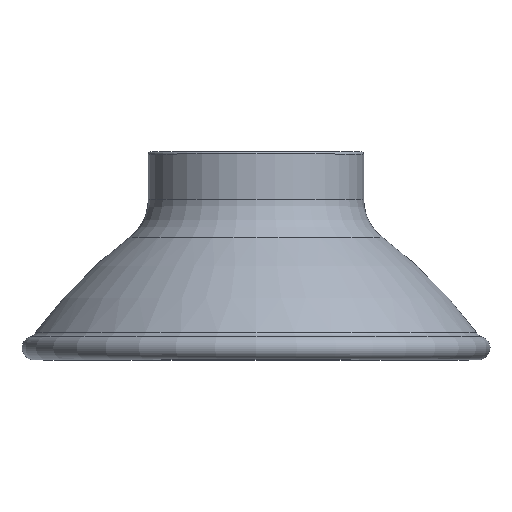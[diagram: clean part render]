
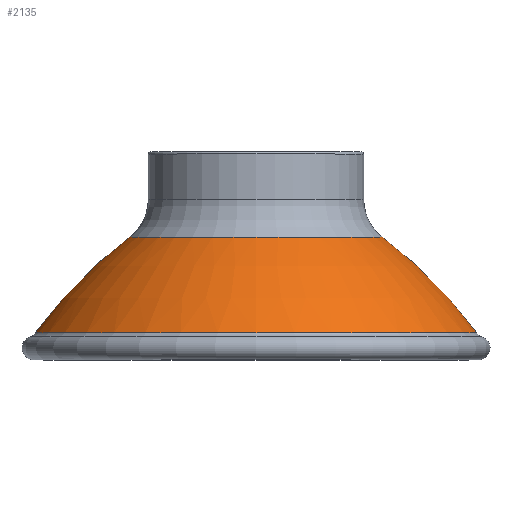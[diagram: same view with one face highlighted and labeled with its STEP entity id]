
A CAD part, top view. The second image highlights one B-rep face of the part: STEP entity #2135.
In plain terms, the highlighted toroidal (fillet/blend) face has major radius 9.77 mm and minor radius 30.431 mm.
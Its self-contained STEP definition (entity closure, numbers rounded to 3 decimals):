
#9 = CARTESIAN_POINT ( 'NONE',  ( 0., -5.747, 0. ) ) ;
#48 = EDGE_CURVE ( 'NONE', #2309, #1795, #1147, .T. ) ;
#163 = CARTESIAN_POINT ( 'NONE',  ( 8.526, -5.747, 0. ) ) ;
#203 = CARTESIAN_POINT ( 'NONE',  ( 0., -12.188, 0. ) ) ;
#253 = ORIENTED_EDGE ( 'NONE', *, *, #769, .F. ) ;
#344 = FACE_OUTER_BOUND ( 'NONE', #1433, .T. ) ;
#507 = VERTEX_POINT ( 'NONE', #1247 ) ;
#566 = EDGE_CURVE ( 'NONE', #507, #2045, #808, .T. ) ;
#580 = DIRECTION ( 'NONE',  ( 0., 1., 0. ) ) ;
#746 = AXIS2_PLACEMENT_3D ( 'NONE', #9, #1698, #955 ) ;
#769 = EDGE_CURVE ( 'NONE', #507, #2309, #2005, .T. ) ;
#773 = DIRECTION ( 'NONE',  ( -1., 0., 0. ) ) ;
#798 = CIRCLE ( 'NONE', #2074, 30.431 ) ;
#808 = CIRCLE ( 'NONE', #2124, 14.858 ) ;
#812 = AXIS2_PLACEMENT_3D ( 'NONE', #898, #1993, #1631 ) ;
#898 = CARTESIAN_POINT ( 'NONE',  ( 9.77, -30.064, 0. ) ) ;
#924 = ORIENTED_EDGE ( 'NONE', *, *, #48, .F. ) ;
#955 = DIRECTION ( 'NONE',  ( -1., 0., 0. ) ) ;
#969 = ORIENTED_EDGE ( 'NONE', *, *, #566, .T. ) ;
#1023 = CARTESIAN_POINT ( 'NONE',  ( -9.77, -30.064, 0. ) ) ;
#1147 = CIRCLE ( 'NONE', #746, 8.526 ) ;
#1149 = DIRECTION ( 'NONE',  ( 0., 1., 0. ) ) ;
#1247 = CARTESIAN_POINT ( 'NONE',  ( -14.858, -12.188, 0. ) ) ;
#1433 = EDGE_LOOP ( 'NONE', ( #969, #1577, #924, #253 ) ) ;
#1441 = TOROIDAL_SURFACE ( 'NONE', #1563, -9.77, 30.431 ) ;
#1512 = CARTESIAN_POINT ( 'NONE',  ( 14.858, -12.188, 0. ) ) ;
#1563 = AXIS2_PLACEMENT_3D ( 'NONE', #1882, #1149, #2445 ) ;
#1577 = ORIENTED_EDGE ( 'NONE', *, *, #1618, .T. ) ;
#1618 = EDGE_CURVE ( 'NONE', #2045, #1795, #798, .T. ) ;
#1631 = DIRECTION ( 'NONE',  ( -1., 0., 0. ) ) ;
#1698 = DIRECTION ( 'NONE',  ( 0., 1., 0. ) ) ;
#1795 = VERTEX_POINT ( 'NONE', #163 ) ;
#1807 = CARTESIAN_POINT ( 'NONE',  ( -8.526, -5.747, 0. ) ) ;
#1882 = CARTESIAN_POINT ( 'NONE',  ( 0., -30.064, 0. ) ) ;
#1945 = DIRECTION ( 'NONE',  ( 1., 0., 0. ) ) ;
#1993 = DIRECTION ( 'NONE',  ( 0., 0., -1. ) ) ;
#2005 = CIRCLE ( 'NONE', #812, 30.431 ) ;
#2045 = VERTEX_POINT ( 'NONE', #1512 ) ;
#2074 = AXIS2_PLACEMENT_3D ( 'NONE', #1023, #2323, #1945 ) ;
#2124 = AXIS2_PLACEMENT_3D ( 'NONE', #203, #580, #773 ) ;
#2135 = ADVANCED_FACE ( 'NONE', ( #344 ), #1441, .T. ) ;
#2309 = VERTEX_POINT ( 'NONE', #1807 ) ;
#2323 = DIRECTION ( 'NONE',  ( 0., 0., 1. ) ) ;
#2445 = DIRECTION ( 'NONE',  ( -1., 0., 0. ) ) ;
